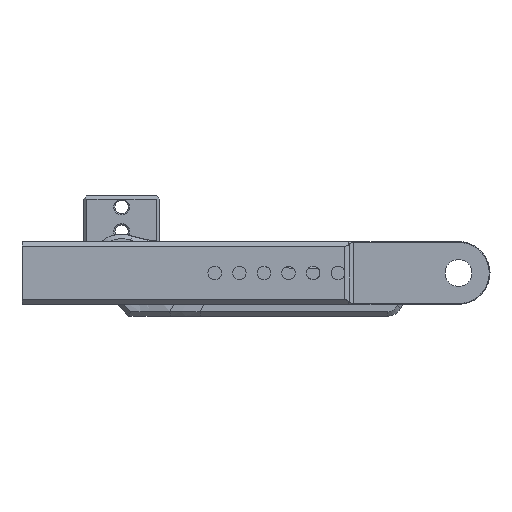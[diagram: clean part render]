
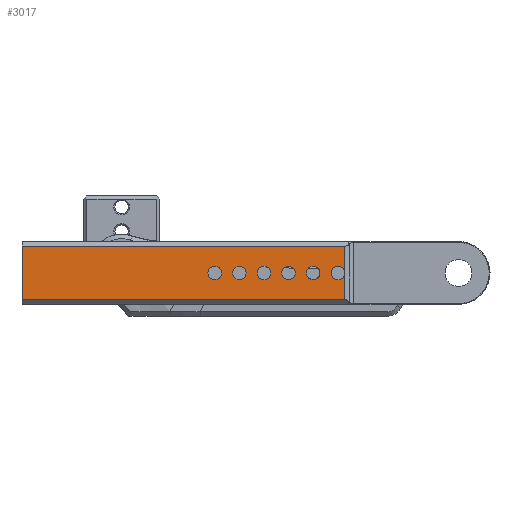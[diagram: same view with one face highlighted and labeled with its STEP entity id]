
A CAD part, left-side view. The second image highlights one B-rep face of the part: STEP entity #3017.
In plain terms, the highlighted planar face has unit normal (-1, 0, 0).
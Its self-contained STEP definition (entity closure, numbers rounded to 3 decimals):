
#2858=CARTESIAN_POINT('',(194.36,-185.5,-1.54));
#2859=DIRECTION('',(1.,-0.,0.));
#2860=DIRECTION('',(0.,1.,0.));
#2861=AXIS2_PLACEMENT_3D('',#2858,#2859,#2860);
#2862=PLANE('',#2861);
#2863=CARTESIAN_POINT('',(194.36,-99.56,-1.54));
#2864=VERTEX_POINT('',#2863);
#2865=CARTESIAN_POINT('',(194.36,-96.56,-4.54));
#2866=VERTEX_POINT('',#2865);
#2867=CARTESIAN_POINT('',(194.36,-96.56,-1.54));
#2868=DIRECTION('',(-1.,0.,-0.));
#2869=DIRECTION('',(0.,0.,-1.));
#2870=AXIS2_PLACEMENT_3D('',#2867,#2868,#2869);
#2871=CIRCLE('',#2870,3.);
#2872=EDGE_CURVE('',#2864,#2866,#2871,.T.);
#2873=ORIENTED_EDGE('',*,*,#2872,.F.);
#2874=CARTESIAN_POINT('',(194.36,-96.56,-1.54));
#2875=DIRECTION('',(-1.,0.,-0.));
#2876=DIRECTION('',(0.,0.,-1.));
#2877=AXIS2_PLACEMENT_3D('',#2874,#2875,#2876);
#2878=CIRCLE('',#2877,3.);
#2879=EDGE_CURVE('',#2866,#2864,#2878,.T.);
#2880=ORIENTED_EDGE('',*,*,#2879,.F.);
#2881=EDGE_LOOP('',(#2873,#2880));
#2882=FACE_BOUND('',#2881,.T.);
#2883=CARTESIAN_POINT('',(194.36,-88.56,-1.54));
#2884=VERTEX_POINT('',#2883);
#2885=CARTESIAN_POINT('',(194.36,-85.56,-4.54));
#2886=VERTEX_POINT('',#2885);
#2887=CARTESIAN_POINT('',(194.36,-85.56,-1.54));
#2888=DIRECTION('',(-1.,0.,-0.));
#2889=DIRECTION('',(0.,0.,-1.));
#2890=AXIS2_PLACEMENT_3D('',#2887,#2888,#2889);
#2891=CIRCLE('',#2890,3.);
#2892=EDGE_CURVE('',#2884,#2886,#2891,.T.);
#2893=ORIENTED_EDGE('',*,*,#2892,.F.);
#2894=CARTESIAN_POINT('',(194.36,-85.56,-1.54));
#2895=DIRECTION('',(-1.,0.,-0.));
#2896=DIRECTION('',(0.,0.,-1.));
#2897=AXIS2_PLACEMENT_3D('',#2894,#2895,#2896);
#2898=CIRCLE('',#2897,3.);
#2899=EDGE_CURVE('',#2886,#2884,#2898,.T.);
#2900=ORIENTED_EDGE('',*,*,#2899,.F.);
#2901=EDGE_LOOP('',(#2893,#2900));
#2902=FACE_BOUND('',#2901,.T.);
#2903=CARTESIAN_POINT('',(194.36,-66.56,-1.54));
#2904=VERTEX_POINT('',#2903);
#2905=CARTESIAN_POINT('',(194.36,-63.56,-4.54));
#2906=VERTEX_POINT('',#2905);
#2907=CARTESIAN_POINT('',(194.36,-63.56,-1.54));
#2908=DIRECTION('',(-1.,0.,-0.));
#2909=DIRECTION('',(0.,0.,-1.));
#2910=AXIS2_PLACEMENT_3D('',#2907,#2908,#2909);
#2911=CIRCLE('',#2910,3.);
#2912=EDGE_CURVE('',#2904,#2906,#2911,.T.);
#2913=ORIENTED_EDGE('',*,*,#2912,.F.);
#2914=CARTESIAN_POINT('',(194.36,-63.56,-1.54));
#2915=DIRECTION('',(-1.,0.,-0.));
#2916=DIRECTION('',(0.,0.,-1.));
#2917=AXIS2_PLACEMENT_3D('',#2914,#2915,#2916);
#2918=CIRCLE('',#2917,3.);
#2919=EDGE_CURVE('',#2906,#2904,#2918,.T.);
#2920=ORIENTED_EDGE('',*,*,#2919,.F.);
#2921=EDGE_LOOP('',(#2913,#2920));
#2922=FACE_BOUND('',#2921,.T.);
#2923=CARTESIAN_POINT('',(194.36,-55.56,-1.54));
#2924=VERTEX_POINT('',#2923);
#2925=CARTESIAN_POINT('',(194.36,-52.56,-4.54));
#2926=VERTEX_POINT('',#2925);
#2927=CARTESIAN_POINT('',(194.36,-52.56,-1.54));
#2928=DIRECTION('',(-1.,0.,-0.));
#2929=DIRECTION('',(0.,0.,-1.));
#2930=AXIS2_PLACEMENT_3D('',#2927,#2928,#2929);
#2931=CIRCLE('',#2930,3.);
#2932=EDGE_CURVE('',#2924,#2926,#2931,.T.);
#2933=ORIENTED_EDGE('',*,*,#2932,.F.);
#2934=CARTESIAN_POINT('',(194.36,-52.56,-1.54));
#2935=DIRECTION('',(-1.,0.,-0.));
#2936=DIRECTION('',(0.,0.,-1.));
#2937=AXIS2_PLACEMENT_3D('',#2934,#2935,#2936);
#2938=CIRCLE('',#2937,3.);
#2939=EDGE_CURVE('',#2926,#2924,#2938,.T.);
#2940=ORIENTED_EDGE('',*,*,#2939,.F.);
#2941=EDGE_LOOP('',(#2933,#2940));
#2942=FACE_BOUND('',#2941,.T.);
#2943=CARTESIAN_POINT('',(194.36,-44.56,-1.54));
#2944=VERTEX_POINT('',#2943);
#2945=CARTESIAN_POINT('',(194.36,-41.56,-4.54));
#2946=VERTEX_POINT('',#2945);
#2947=CARTESIAN_POINT('',(194.36,-41.56,-1.54));
#2948=DIRECTION('',(-1.,0.,-0.));
#2949=DIRECTION('',(0.,0.,-1.));
#2950=AXIS2_PLACEMENT_3D('',#2947,#2948,#2949);
#2951=CIRCLE('',#2950,3.);
#2952=EDGE_CURVE('',#2944,#2946,#2951,.T.);
#2953=ORIENTED_EDGE('',*,*,#2952,.F.);
#2954=CARTESIAN_POINT('',(194.36,-41.56,-1.54));
#2955=DIRECTION('',(-1.,0.,-0.));
#2956=DIRECTION('',(0.,0.,-1.));
#2957=AXIS2_PLACEMENT_3D('',#2954,#2955,#2956);
#2958=CIRCLE('',#2957,3.);
#2959=EDGE_CURVE('',#2946,#2944,#2958,.T.);
#2960=ORIENTED_EDGE('',*,*,#2959,.F.);
#2961=EDGE_LOOP('',(#2953,#2960));
#2962=FACE_BOUND('',#2961,.T.);
#2963=CARTESIAN_POINT('',(194.36,-77.56,-1.54));
#2964=VERTEX_POINT('',#2963);
#2965=CARTESIAN_POINT('',(194.36,-74.56,-4.54));
#2966=VERTEX_POINT('',#2965);
#2967=CARTESIAN_POINT('',(194.36,-74.56,-1.54));
#2968=DIRECTION('',(-1.,0.,-0.));
#2969=DIRECTION('',(0.,0.,-1.));
#2970=AXIS2_PLACEMENT_3D('',#2967,#2968,#2969);
#2971=CIRCLE('',#2970,3.);
#2972=EDGE_CURVE('',#2964,#2966,#2971,.T.);
#2973=ORIENTED_EDGE('',*,*,#2972,.F.);
#2974=CARTESIAN_POINT('',(194.36,-74.56,-1.54));
#2975=DIRECTION('',(-1.,0.,-0.));
#2976=DIRECTION('',(0.,0.,-1.));
#2977=AXIS2_PLACEMENT_3D('',#2974,#2975,#2976);
#2978=CIRCLE('',#2977,3.);
#2979=EDGE_CURVE('',#2966,#2964,#2978,.T.);
#2980=ORIENTED_EDGE('',*,*,#2979,.F.);
#2981=EDGE_LOOP('',(#2973,#2980));
#2982=FACE_BOUND('',#2981,.T.);
#2983=CARTESIAN_POINT('',(194.36,44.5,-13.54));
#2984=VERTEX_POINT('',#2983);
#2985=CARTESIAN_POINT('',(194.36,-99.578,-13.54));
#2986=VERTEX_POINT('',#2985);
#2987=CARTESIAN_POINT('',(194.36,44.5,-13.54));
#2988=DIRECTION('',(0.,-1.,-0.));
#2989=VECTOR('',#2988,144.078);
#2990=LINE('',#2987,#2989);
#2991=EDGE_CURVE('',#2984,#2986,#2990,.T.);
#2992=ORIENTED_EDGE('',*,*,#2991,.T.);
#2993=CARTESIAN_POINT('',(194.36,-99.578,10.46));
#2994=VERTEX_POINT('',#2993);
#2995=CARTESIAN_POINT('',(194.36,-99.578,-13.54));
#2996=DIRECTION('',(-0.,-0.,1.));
#2997=VECTOR('',#2996,24.);
#2998=LINE('',#2995,#2997);
#2999=EDGE_CURVE('',#2986,#2994,#2998,.T.);
#3000=ORIENTED_EDGE('',*,*,#2999,.T.);
#3001=CARTESIAN_POINT('',(194.36,44.5,10.46));
#3002=VERTEX_POINT('',#3001);
#3003=CARTESIAN_POINT('',(194.36,-99.578,10.46));
#3004=DIRECTION('',(0.,1.,0.));
#3005=VECTOR('',#3004,144.078);
#3006=LINE('',#3003,#3005);
#3007=EDGE_CURVE('',#2994,#3002,#3006,.T.);
#3008=ORIENTED_EDGE('',*,*,#3007,.T.);
#3009=CARTESIAN_POINT('',(194.36,44.5,10.46));
#3010=DIRECTION('',(0.,0.,-1.));
#3011=VECTOR('',#3010,24.);
#3012=LINE('',#3009,#3011);
#3013=EDGE_CURVE('',#3002,#2984,#3012,.T.);
#3014=ORIENTED_EDGE('',*,*,#3013,.T.);
#3015=EDGE_LOOP('',(#2992,#3000,#3008,#3014));
#3016=FACE_BOUND('',#3015,.T.);
#3017=ADVANCED_FACE('',(#2882,#2902,#2922,#2942,#2962,#2982,#3016),#2862,.F.);
